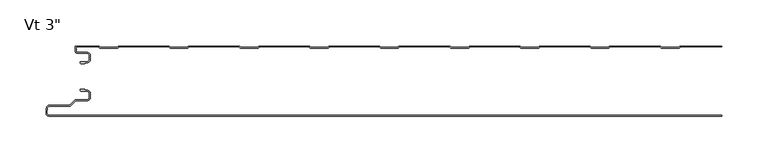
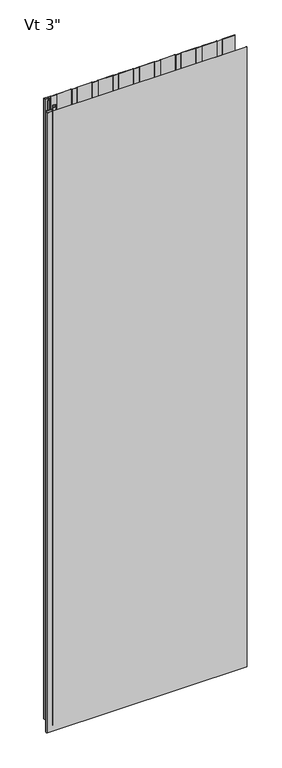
"""IFC4 building model written with IfcOpenShell, lengths in millimetres: plate geometry."""

from ifc_helpers import new_model, si_unit, point, frame, frame_2d, origin, origin_with_axes, place, context, project, spatial, polyline, circle_curve, trimmed, segment, composite_curve, outline, extrude, source, transform, mapped, element, save
from ifc_brep_helpers import plane_surface, cylinder_surface, revolved_surface, advanced_brep


def plate_c4b5e563(model_context):
    return source(origin(), model_context, "Body", "SolidModel", [
        advanced_brep(
        [(-346.968691, -17.0015202, 2400.0), (-347.9686883, -18.0015234, 2400.0), (-346.968691, -19.0015147, 2400.0), (-342.9684874, -19.0015147, 2400.0), (-342.9684874, -18.0015202, 2400.0), (-340.2762776, -18.0015202, 2400.0), (-336.9762819, -14.7015245, 2400.0), (-336.9762819, -10.3015333, 2400.0), (-340.2762774, -7.0015378, 2400.0), (-350.6962563, -7.0015378, 2400.0), (-352.4662505, -5.2315436, 2400.0), (-352.4662505, -0.9999959, 2400.0), (-327.9659738, -0.9999959, 2400.0), (-326.5803312, -2.200235, 2400.0), (-307.2051649, -2.200235, 2400.0), (-305.819532, -1.0000043, 2400.0), (-251.7661166, -1.0000043, 2400.0), (-250.3804836, -2.200235, 2400.0), (-231.0053173, -2.200235, 2400.0), (-229.6196844, -1.0000043, 2400.0), (-175.566269, -1.0000043, 2400.0), (-174.180636, -2.200235, 2400.0), (-154.8054697, -2.200235, 2400.0), (-153.4198368, -1.0000043, 2400.0), (-99.3664214, -1.0000043, 2400.0), (-97.9807884, -2.200235, 2400.0), (-78.6056221, -2.200235, 2400.0), (-77.2199892, -1.0000043, 2400.0), (-23.1665738, -1.0000043, 2400.0), (-21.7809408, -2.200235, 2400.0), (-2.4057745, -2.200235, 2400.0), (-1.0201416, -1.0000043, 2400.0), (53.0332738, -1.0000043, 2400.0), (54.4189068, -2.200235, 2400.0), (73.7940731, -2.200235, 2400.0), (75.179706, -1.0000043, 2400.0), (129.2331214, -1.0000043, 2400.0), (130.6187544, -2.200235, 2400.0), (149.9939207, -2.200235, 2400.0), (151.3795536, -1.0000043, 2400.0), (205.432969, -1.0000043, 2400.0), (206.818602, -2.200235, 2400.0), (226.1937683, -2.200235, 2400.0), (227.5794012, -1.0000043, 2400.0), (281.6328166, -1.0000043, 2400.0), (283.0184496, -2.200235, 2400.0), (302.3936159, -2.200235, 2400.0), (303.7792488, -1.0000043, 2400.0), (348.9999998, -1.0000043, 2400.0), (348.9999998, -4.3e-06, 2400.0), (303.9284, -4.3e-06, 2400.0), (303.0117831, -0.3417928, 2400.0), (302.0207355, -1.200235, 2400.0), (283.39133, -1.200235, 2400.0), (282.4002824, -0.3417928, 2400.0), (281.4836655, -4.3e-06, 2400.0), (227.7285524, -4.3e-06, 2400.0), (226.8119355, -0.3417928, 2400.0), (225.8208879, -1.200235, 2400.0), (207.1914824, -1.200235, 2400.0), (206.2004348, -0.3417928, 2400.0), (205.2838179, -4.3e-06, 2400.0), (151.5287048, -4.3e-06, 2400.0), (150.6120879, -0.3417928, 2400.0), (149.6210403, -1.200235, 2400.0), (130.9916348, -1.200235, 2400.0), (130.0005872, -0.3417928, 2400.0), (129.0839703, -4.3e-06, 2400.0), (75.3288572, -4.3e-06, 2400.0), (74.4122403, -0.3417928, 2400.0), (73.4211927, -1.200235, 2400.0), (54.7917872, -1.200235, 2400.0), (53.8007396, -0.3417928, 2400.0), (52.8841227, -4.3e-06, 2400.0), (-0.8709904, -4.3e-06, 2400.0), (-1.7876073, -0.3417928, 2400.0), (-2.7786549, -1.200235, 2400.0), (-21.4080604, -1.200235, 2400.0), (-22.399108, -0.3417928, 2400.0), (-23.3157249, -4.3e-06, 2400.0), (-77.070838, -4.3e-06, 2400.0), (-77.9874549, -0.3417928, 2400.0), (-78.9785025, -1.200235, 2400.0), (-97.607908, -1.200235, 2400.0), (-98.5989556, -0.3417928, 2400.0), (-99.5155725, -4.3e-06, 2400.0), (-153.2706856, -4.3e-06, 2400.0), (-154.1873025, -0.3417928, 2400.0), (-155.1783501, -1.200235, 2400.0), (-173.8077556, -1.200235, 2400.0), (-174.7988032, -0.3417928, 2400.0), (-175.7154201, -4.3e-06, 2400.0), (-229.4705332, -4.3e-06, 2400.0), (-230.3871501, -0.3417928, 2400.0), (-231.3781977, -1.200235, 2400.0), (-250.0076032, -1.200235, 2400.0), (-250.9986508, -0.3417928, 2400.0), (-251.9152677, -4.3e-06, 2400.0), (-305.6703808, -4.3e-06, 2400.0), (-306.5869977, -0.3417928, 2400.0), (-307.5780453, -1.200235, 2400.0), (-326.2074508, -1.200235, 2400.0), (-327.1984984, -0.3417928, 2400.0), (-328.1152067, -4.3e-06, 2400.0), (-352.0662543, 4.1e-06, 2400.0), (-353.4662505, -1.3999921, 2400.0), (-353.4662505, -5.2315436, 2400.0), (-350.6962563, -8.0015378, 2400.0), (-340.2762774, -8.0015378, 2400.0), (-337.9762819, -10.3015333, 2400.0), (-337.9762819, -14.7015245, 2400.0), (-340.2762776, -17.0015202, 2400.0), (-346.968691, -17.0015202, 0.0), (-340.2762776, -17.0015202, 0.0), (-337.9762819, -14.7015245, 0.0), (-337.9762819, -10.3015333, 0.0), (-340.2762774, -8.0015378, 0.0), (-350.6962563, -8.0015378, 0.0), (-353.4662505, -5.2315436, 0.0), (-353.4662505, -1.3999921, 0.0), (-352.0662543, 4.1e-06, 0.0), (-328.1151153, 4.1e-06, 0.0), (-327.1984984, -0.3417928, 0.0), (-326.2074508, -1.200235, 0.0), (-307.5780453, -1.200235, 0.0), (-306.5869977, -0.3417928, 0.0), (-305.6703808, -4.3e-06, 0.0), (-251.9152677, -4.3e-06, 0.0), (-250.9986508, -0.3417928, 0.0), (-250.0076032, -1.200235, 0.0), (-231.3781977, -1.200235, 0.0), (-230.3871501, -0.3417928, 0.0), (-229.4705332, -4.3e-06, 0.0), (-175.7154201, -4.3e-06, 0.0), (-174.7988032, -0.3417928, 0.0), (-173.8077556, -1.200235, 0.0), (-155.1783501, -1.200235, 0.0), (-154.1873025, -0.3417928, 0.0), (-153.2706856, -4.3e-06, 0.0), (-99.5155725, -4.3e-06, 0.0), (-98.5989556, -0.3417928, 0.0), (-97.607908, -1.200235, 0.0), (-78.9785025, -1.200235, 0.0), (-77.9874549, -0.3417928, 0.0), (-77.070838, -4.3e-06, 0.0), (-23.3157249, -4.3e-06, 0.0), (-22.399108, -0.3417928, 0.0), (-21.4080604, -1.200235, 0.0), (-2.7786549, -1.200235, 0.0), (-1.7876073, -0.3417928, 0.0), (-0.8709904, -4.3e-06, 0.0), (52.8841227, -4.3e-06, 0.0), (53.8007396, -0.3417928, 0.0), (54.7917872, -1.200235, 0.0), (73.4211927, -1.200235, 0.0), (74.4122403, -0.3417928, 0.0), (75.3288572, -4.3e-06, 0.0), (129.0839703, -4.3e-06, 0.0), (130.0005872, -0.3417928, 0.0), (130.9916348, -1.200235, 0.0), (149.6210403, -1.200235, 0.0), (150.6120879, -0.3417928, 0.0), (151.5287048, -4.3e-06, 0.0), (205.2838179, -4.3e-06, 0.0), (206.2004348, -0.3417928, 0.0), (207.1914824, -1.200235, 0.0), (225.8208879, -1.200235, 0.0), (226.8119355, -0.3417928, 0.0), (227.7285524, -4.3e-06, 0.0), (281.4836655, -4.3e-06, 0.0), (282.4002824, -0.3417928, 0.0), (283.39133, -1.200235, 0.0), (302.0207355, -1.200235, 0.0), (303.0117831, -0.3417928, 0.0), (303.9284, -4.3e-06, 0.0), (348.9999998, -4.3e-06, 0.0), (348.9999998, -1.0000043, 0.0), (303.7792488, -1.0000043, 0.0), (302.3936159, -2.200235, 0.0), (283.0184496, -2.200235, 0.0), (281.6328166, -1.0000043, 0.0), (227.5794012, -1.0000043, 0.0), (226.1937683, -2.200235, 0.0), (206.818602, -2.200235, 0.0), (205.432969, -1.0000043, 0.0), (151.3795536, -1.0000043, 0.0), (149.9939207, -2.200235, 0.0), (130.6187544, -2.200235, 0.0), (129.2331214, -1.0000043, 0.0), (75.179706, -1.0000043, 0.0), (73.7940731, -2.200235, 0.0), (54.4189068, -2.200235, 0.0), (53.0332738, -1.0000043, 0.0), (-1.0201416, -1.0000043, 0.0), (-2.4057745, -2.200235, 0.0), (-21.7809408, -2.200235, 0.0), (-23.1665738, -1.0000043, 0.0), (-77.2199892, -1.0000043, 0.0), (-78.6056221, -2.200235, 0.0), (-97.9807884, -2.200235, 0.0), (-99.3664214, -1.0000043, 0.0), (-153.4198368, -1.0000043, 0.0), (-154.8054697, -2.200235, 0.0), (-174.180636, -2.200235, 0.0), (-175.566269, -1.0000043, 0.0), (-229.6196844, -1.0000043, 0.0), (-231.0053173, -2.200235, 0.0), (-250.3804836, -2.200235, 0.0), (-251.7661166, -1.0000043, 0.0), (-305.819532, -1.0000043, 0.0), (-307.2051649, -2.200235, 0.0), (-326.5803312, -2.200235, 0.0), (-327.9659738, -0.9999959, 0.0), (-352.4662505, -0.9999959, 0.0), (-352.4662505, -5.2315436, 0.0), (-350.6962563, -7.0015378, 0.0), (-340.2762774, -7.0015378, 0.0), (-336.9762819, -10.3015333, 0.0), (-336.9762819, -14.7015245, 0.0), (-340.2762776, -18.0015202, 0.0), (-342.9684874, -18.0015202, 0.0), (-342.9684874, -19.0015147, 0.0), (-346.968691, -19.0015147, 0.0), (-347.9686882, -18.0015235, 0.0)],
        [
            (0, 1, circle_curve(frame((-346.968691, -18.0015175, 2400.0), z_axis=(0.0, 0.0, 1.0), x_axis=(1.0, 0.0, 0.0)), 0.9999973)),
            (1, 2, circle_curve(frame((-346.968691, -18.0015175, 2400.0), z_axis=(0.0, 0.0, 1.0), x_axis=(1.0, 0.0, 0.0)), 0.9999972)),
            (2, 3),
            (3, 4),
            (4, 5),
            (5, 6, circle_curve(frame((-340.2762776, -14.7015245, 2400.0), z_axis=(0.0, 0.0, 1.0), x_axis=(1.0, 0.0, 0.0)), 3.2999957)),
            (6, 7),
            (7, 8, circle_curve(frame((-340.2762774, -10.3015333, 2400.0), z_axis=(0.0, 0.0, 1.0), x_axis=(1.0, 0.0, 0.0)), 3.2999955)),
            (8, 9),
            (9, 10, circle_curve(frame((-350.6962563, -5.2315436, 2400.0), z_axis=(0.0, 0.0, -1.0), x_axis=(1.0, 0.0, 0.0)), 1.7699942)),
            (10, 11),
            (11, 12),
            (12, 13),
            (13, 14),
            (14, 15),
            (15, 16),
            (16, 17),
            (17, 18),
            (18, 19),
            (19, 20),
            (20, 21),
            (21, 22),
            (22, 23),
            (23, 24),
            (24, 25),
            (25, 26),
            (26, 27),
            (27, 28),
            (28, 29),
            (29, 30),
            (30, 31),
            (31, 32),
            (32, 33),
            (33, 34),
            (34, 35),
            (35, 36),
            (36, 37),
            (37, 38),
            (38, 39),
            (39, 40),
            (40, 41),
            (41, 42),
            (42, 43),
            (43, 44),
            (44, 45),
            (45, 46),
            (46, 47),
            (47, 48),
            (48, 49),
            (49, 50),
            (50, 51, circle_curve(frame((303.9284, -1.4000015, 2400.0), z_axis=(0.0, 0.0, 1.0), x_axis=(1.0, 0.0, 0.0)), 1.3999972)),
            (51, 52),
            (52, 53),
            (53, 54),
            (54, 55, circle_curve(frame((281.4836655, -1.4000015, 2400.0), z_axis=(0.0, 0.0, 1.0), x_axis=(1.0, 0.0, 0.0)), 1.3999972)),
            (55, 56),
            (56, 57, circle_curve(frame((227.7285524, -1.4000015, 2400.0), z_axis=(0.0, 0.0, 1.0), x_axis=(1.0, 0.0, 0.0)), 1.3999972)),
            (57, 58),
            (58, 59),
            (59, 60),
            (60, 61, circle_curve(frame((205.2838179, -1.4000015, 2400.0), z_axis=(0.0, 0.0, 1.0), x_axis=(1.0, 0.0, 0.0)), 1.3999972)),
            (61, 62),
            (62, 63, circle_curve(frame((151.5287048, -1.4000015, 2400.0), z_axis=(0.0, 0.0, 1.0), x_axis=(1.0, 0.0, 0.0)), 1.3999972)),
            (63, 64),
            (64, 65),
            (65, 66),
            (66, 67, circle_curve(frame((129.0839703, -1.4000015, 2400.0), z_axis=(0.0, 0.0, 1.0), x_axis=(1.0, 0.0, 0.0)), 1.3999972)),
            (67, 68),
            (68, 69, circle_curve(frame((75.3288572, -1.4000015, 2400.0), z_axis=(0.0, 0.0, 1.0), x_axis=(1.0, 0.0, 0.0)), 1.3999972)),
            (69, 70),
            (70, 71),
            (71, 72),
            (72, 73, circle_curve(frame((52.8841227, -1.4000015, 2400.0), z_axis=(0.0, 0.0, 1.0), x_axis=(1.0, 0.0, 0.0)), 1.3999972)),
            (73, 74),
            (74, 75, circle_curve(frame((-0.8709904, -1.4000015, 2400.0), z_axis=(0.0, 0.0, 1.0), x_axis=(1.0, 0.0, 0.0)), 1.3999972)),
            (75, 76),
            (76, 77),
            (77, 78),
            (78, 79, circle_curve(frame((-23.3157249, -1.4000015, 2400.0), z_axis=(0.0, 0.0, 1.0), x_axis=(1.0, 0.0, 0.0)), 1.3999972)),
            (79, 80),
            (80, 81, circle_curve(frame((-77.070838, -1.4000015, 2400.0), z_axis=(0.0, 0.0, 1.0), x_axis=(1.0, 0.0, 0.0)), 1.3999972)),
            (81, 82),
            (82, 83),
            (83, 84),
            (84, 85, circle_curve(frame((-99.5155725, -1.4000015, 2400.0), z_axis=(0.0, 0.0, 1.0), x_axis=(1.0, 0.0, 0.0)), 1.3999972)),
            (85, 86),
            (86, 87, circle_curve(frame((-153.2706856, -1.4000015, 2400.0), z_axis=(0.0, 0.0, 1.0), x_axis=(1.0, 0.0, 0.0)), 1.3999972)),
            (87, 88),
            (88, 89),
            (89, 90),
            (90, 91, circle_curve(frame((-175.7154201, -1.4000015, 2400.0), z_axis=(0.0, 0.0, 1.0), x_axis=(1.0, 0.0, 0.0)), 1.3999972)),
            (91, 92),
            (92, 93, circle_curve(frame((-229.4705332, -1.4000015, 2400.0), z_axis=(0.0, 0.0, 1.0), x_axis=(1.0, 0.0, 0.0)), 1.3999972)),
            (93, 94),
            (94, 95),
            (95, 96),
            (96, 97, circle_curve(frame((-251.9152677, -1.4000015, 2400.0), z_axis=(0.0, 0.0, 1.0), x_axis=(1.0, 0.0, 0.0)), 1.3999972)),
            (97, 98),
            (98, 99, circle_curve(frame((-305.6703808, -1.4000015, 2400.0), z_axis=(0.0, 0.0, 1.0), x_axis=(1.0, 0.0, 0.0)), 1.3999972)),
            (99, 100),
            (100, 101),
            (101, 102),
            (102, 103, circle_curve(frame((-328.1151153, -1.4000015, 2400.0), z_axis=(0.0, 0.0, 1.0), x_axis=(1.0, 0.0, 0.0)), 1.3999972)),
            (103, 104),
            (104, 105, circle_curve(frame((-352.0662543, -1.3999921, 2400.0), z_axis=(0.0, 0.0, 1.0), x_axis=(1.0, 0.0, 0.0)), 1.3999962)),
            (105, 106),
            (106, 107, circle_curve(frame((-350.6962563, -5.2315436, 2400.0), z_axis=(0.0, 0.0, 1.0), x_axis=(1.0, 0.0, 0.0)), 2.7699942)),
            (107, 108),
            (108, 109, circle_curve(frame((-340.2762774, -10.3015333, 2400.0), z_axis=(0.0, 0.0, -1.0), x_axis=(1.0, 0.0, 0.0)), 2.2999955)),
            (109, 110),
            (110, 111, circle_curve(frame((-340.2762776, -14.7015245, 2400.0), z_axis=(0.0, 0.0, -1.0), x_axis=(1.0, 0.0, 0.0)), 2.2999957)),
            (111, 0),
            (112, 113),
            (113, 114, circle_curve(frame((-340.2762776, -14.7015245, 0.0), z_axis=(0.0, 0.0, 1.0), x_axis=(1.0, 0.0, 0.0)), 2.2999957)),
            (114, 115),
            (115, 116, circle_curve(frame((-340.2762774, -10.3015333, 0.0), z_axis=(0.0, 0.0, 1.0), x_axis=(1.0, 0.0, 0.0)), 2.2999955)),
            (116, 117),
            (117, 118, circle_curve(frame((-350.6962563, -5.2315436, 0.0), z_axis=(0.0, 0.0, -1.0), x_axis=(1.0, 0.0, 0.0)), 2.7699942)),
            (118, 119),
            (119, 120, circle_curve(frame((-352.0662543, -1.3999921, 0.0), z_axis=(0.0, 0.0, -1.0), x_axis=(1.0, 0.0, 0.0)), 1.3999962)),
            (120, 121),
            (121, 122, circle_curve(frame((-328.1151153, -1.4000015, 0.0), z_axis=(0.0, 0.0, -1.0), x_axis=(1.0, 0.0, 0.0)), 1.3999972)),
            (122, 123),
            (123, 124),
            (124, 125),
            (125, 126, circle_curve(frame((-305.6703808, -1.4000015, 0.0), z_axis=(0.0, 0.0, -1.0), x_axis=(1.0, 0.0, 0.0)), 1.3999972)),
            (126, 127),
            (127, 128, circle_curve(frame((-251.9152677, -1.4000015, 0.0), z_axis=(0.0, 0.0, -1.0), x_axis=(1.0, 0.0, 0.0)), 1.3999972)),
            (128, 129),
            (129, 130),
            (130, 131),
            (131, 132, circle_curve(frame((-229.4705332, -1.4000015, 0.0), z_axis=(0.0, 0.0, -1.0), x_axis=(1.0, 0.0, 0.0)), 1.3999972)),
            (132, 133),
            (133, 134, circle_curve(frame((-175.7154201, -1.4000015, 0.0), z_axis=(0.0, 0.0, -1.0), x_axis=(1.0, 0.0, 0.0)), 1.3999972)),
            (134, 135),
            (135, 136),
            (136, 137),
            (137, 138, circle_curve(frame((-153.2706856, -1.4000015, 0.0), z_axis=(0.0, 0.0, -1.0), x_axis=(1.0, 0.0, 0.0)), 1.3999972)),
            (138, 139),
            (139, 140, circle_curve(frame((-99.5155725, -1.4000015, 0.0), z_axis=(0.0, 0.0, -1.0), x_axis=(1.0, 0.0, 0.0)), 1.3999972)),
            (140, 141),
            (141, 142),
            (142, 143),
            (143, 144, circle_curve(frame((-77.070838, -1.4000015, 0.0), z_axis=(0.0, 0.0, -1.0), x_axis=(1.0, 0.0, 0.0)), 1.3999972)),
            (144, 145),
            (145, 146, circle_curve(frame((-23.3157249, -1.4000015, 0.0), z_axis=(0.0, 0.0, -1.0), x_axis=(1.0, 0.0, 0.0)), 1.3999972)),
            (146, 147),
            (147, 148),
            (148, 149),
            (149, 150, circle_curve(frame((-0.8709904, -1.4000015, 0.0), z_axis=(0.0, 0.0, -1.0), x_axis=(1.0, 0.0, 0.0)), 1.3999972)),
            (150, 151),
            (151, 152, circle_curve(frame((52.8841227, -1.4000015, 0.0), z_axis=(0.0, 0.0, -1.0), x_axis=(1.0, 0.0, 0.0)), 1.3999972)),
            (152, 153),
            (153, 154),
            (154, 155),
            (155, 156, circle_curve(frame((75.3288572, -1.4000015, 0.0), z_axis=(0.0, 0.0, -1.0), x_axis=(1.0, 0.0, 0.0)), 1.3999972)),
            (156, 157),
            (157, 158, circle_curve(frame((129.0839703, -1.4000015, 0.0), z_axis=(0.0, 0.0, -1.0), x_axis=(1.0, 0.0, 0.0)), 1.3999972)),
            (158, 159),
            (159, 160),
            (160, 161),
            (161, 162, circle_curve(frame((151.5287048, -1.4000015, 0.0), z_axis=(0.0, 0.0, -1.0), x_axis=(1.0, 0.0, 0.0)), 1.3999972)),
            (162, 163),
            (163, 164, circle_curve(frame((205.2838179, -1.4000015, 0.0), z_axis=(0.0, 0.0, -1.0), x_axis=(1.0, 0.0, 0.0)), 1.3999972)),
            (164, 165),
            (165, 166),
            (166, 167),
            (167, 168, circle_curve(frame((227.7285524, -1.4000015, 0.0), z_axis=(0.0, 0.0, -1.0), x_axis=(1.0, 0.0, 0.0)), 1.3999972)),
            (168, 169),
            (169, 170, circle_curve(frame((281.4836655, -1.4000015, 0.0), z_axis=(0.0, 0.0, -1.0), x_axis=(1.0, 0.0, 0.0)), 1.3999972)),
            (170, 171),
            (171, 172),
            (172, 173),
            (173, 174, circle_curve(frame((303.9284, -1.4000015, 0.0), z_axis=(0.0, 0.0, -1.0), x_axis=(1.0, 0.0, 0.0)), 1.3999972)),
            (174, 175),
            (175, 176),
            (176, 177),
            (177, 178),
            (178, 179),
            (179, 180),
            (180, 181),
            (181, 182),
            (182, 183),
            (183, 184),
            (184, 185),
            (185, 186),
            (186, 187),
            (187, 188),
            (188, 189),
            (189, 190),
            (190, 191),
            (191, 192),
            (192, 193),
            (193, 194),
            (194, 195),
            (195, 196),
            (196, 197),
            (197, 198),
            (198, 199),
            (199, 200),
            (200, 201),
            (201, 202),
            (202, 203),
            (203, 204),
            (204, 205),
            (205, 206),
            (206, 207),
            (207, 208),
            (208, 209),
            (209, 210),
            (210, 211),
            (211, 212),
            (212, 213),
            (213, 214),
            (214, 215, circle_curve(frame((-350.6962563, -5.2315436, 0.0), z_axis=(0.0, 0.0, 1.0), x_axis=(1.0, 0.0, 0.0)), 1.7699942)),
            (215, 216),
            (216, 217, circle_curve(frame((-340.2762774, -10.3015333, 0.0), z_axis=(0.0, 0.0, -1.0), x_axis=(1.0, 0.0, 0.0)), 3.2999955)),
            (217, 218),
            (218, 219, circle_curve(frame((-340.2762776, -14.7015245, 0.0), z_axis=(0.0, 0.0, -1.0), x_axis=(1.0, 0.0, 0.0)), 3.2999957)),
            (219, 220),
            (220, 221),
            (221, 222),
            (222, 223, circle_curve(frame((-346.968691, -18.0015175, 0.0), z_axis=(0.0, 0.0, -1.0), x_axis=(1.0, 0.0, 0.0)), 0.9999972)),
            (223, 112, circle_curve(frame((-346.968691, -18.0015175, 0.0), z_axis=(0.0, 0.0, -1.0), x_axis=(1.0, 0.0, 0.0)), 0.9999973)),
            (48, 176),
            (175, 49),
            (111, 113),
            (112, 0),
            (110, 114),
            (109, 115),
            (108, 116),
            (107, 117),
            (106, 118),
            (105, 119),
            (104, 120),
            (103, 121),
            (102, 122),
            (101, 123),
            (100, 124),
            (99, 125),
            (98, 126),
            (97, 127),
            (96, 128),
            (95, 129),
            (94, 130),
            (93, 131),
            (92, 132),
            (91, 133),
            (90, 134),
            (89, 135),
            (88, 136),
            (87, 137),
            (86, 138),
            (85, 139),
            (84, 140),
            (83, 141),
            (82, 142),
            (81, 143),
            (80, 144),
            (79, 145),
            (78, 146),
            (77, 147),
            (76, 148),
            (75, 149),
            (74, 150),
            (73, 151),
            (72, 152),
            (71, 153),
            (70, 154),
            (69, 155),
            (68, 156),
            (67, 157),
            (66, 158),
            (65, 159),
            (64, 160),
            (63, 161),
            (62, 162),
            (38, 186),
            (185, 39),
            (37, 187),
            (36, 188),
            (35, 189),
            (34, 190),
            (33, 191),
            (32, 192),
            (31, 193),
            (30, 194),
            (29, 195),
            (28, 196),
            (27, 197),
            (26, 198),
            (25, 199),
            (24, 200),
            (23, 201),
            (22, 202),
            (21, 203),
            (20, 204),
            (19, 205),
            (18, 206),
            (17, 207),
            (16, 208),
            (15, 209),
            (14, 210),
            (13, 211),
            (12, 212),
            (11, 213),
            (10, 214),
            (9, 215),
            (8, 216),
            (7, 217),
            (6, 218),
            (5, 219),
            (4, 220),
            (3, 221),
            (2, 222),
            (1, 223),
            (55, 169),
            (168, 56),
            (54, 170),
            (53, 171),
            (52, 172),
            (51, 173),
            (50, 174),
            (43, 181),
            (180, 44),
            (42, 182),
            (41, 183),
            (40, 184),
            (61, 163),
            (60, 164),
            (59, 165),
            (58, 166),
            (57, 167),
            (47, 177),
            (46, 178),
            (45, 179),
        ],
        [
            plane_surface(frame((32.0000002, -4.3e-06, 2400.0), z_axis=(0.0, 0.0, 1.0), x_axis=(0.0, 1.0, 0.0))),
            plane_surface(frame((32.0000002, -4.3e-06, 0.0), z_axis=(0.0, 0.0, -1.0), x_axis=(0.0, 1.0, 0.0))),
            plane_surface(frame((348.9999998, -86.2000043, 2400.0), z_axis=(1.0, 0.0, 0.0), x_axis=(0.0, 0.0, -1.0))),
            plane_surface(frame((-346.968691, -17.0015202, 2400.0), z_axis=(0.0, 1.0, 0.0), x_axis=(0.0, 0.0, -1.0))),
            revolved_surface(polyline([(-337.9762819, -14.7015245, 0.0), (-337.9762819, -14.7015245, 2400.0)]), (-340.2762776, -14.7015245, 2400.0), (0.0, 0.0, -1.0)),
            plane_surface(frame((-337.9762819, -14.7015245, 2400.0), z_axis=(-1.0, 0.0, 0.0), x_axis=(0.0, 0.0, -1.0))),
            revolved_surface(polyline([(-337.9762819, -10.3015333, 0.0), (-337.9762819, -10.3015333, 2400.0)]), (-340.2762774, -10.3015333, 2400.0), (0.0, 0.0, -1.0)),
            plane_surface(frame((-340.2762774, -8.0015378, 2400.0), z_axis=(0.0, -1.0, 0.0), x_axis=(0.0, 0.0, -1.0))),
            cylinder_surface(frame((-350.6962563, -5.2315436, 2400.0), z_axis=(0.0, 0.0, 1.0), x_axis=(1.0, 0.0, 0.0)), 2.7699942),
            plane_surface(frame((-353.4662505, -5.2315436, 2400.0), z_axis=(-1.0, 0.0, 0.0), x_axis=(0.0, 0.0, -1.0))),
            cylinder_surface(frame((-352.0662543, -1.3999921, 2400.0), z_axis=(0.0, 0.0, 1.0), x_axis=(1.0, 0.0, 0.0)), 1.3999962),
            plane_surface(frame((-352.0662543, 4.1e-06, 2400.0), z_axis=(0.0, 1.0, 0.0), x_axis=(0.0, 0.0, -1.0))),
            cylinder_surface(frame((-328.1151153, -1.4000015, 2400.0), z_axis=(0.0, 0.0, 1.0), x_axis=(1.0, 0.0, 0.0)), 1.3999972),
            plane_surface(frame((-327.1984984, -0.3417928, 2400.0), z_axis=(0.6547276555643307, 0.7558648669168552, 0.0), x_axis=(0.0, 0.0, -1.0))),
            plane_surface(frame((-316.8927481, -1.200235, 2400.0), z_axis=(0.0, 1.0, 0.0), x_axis=(0.0, 0.0, -1.0))),
            plane_surface(frame((-307.5780453, -1.200235, 2400.0), z_axis=(-0.6547276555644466, 0.7558648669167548, 0.0), x_axis=(0.0, 0.0, -1.0))),
            cylinder_surface(frame((-305.6703808, -1.4000015, 2400.0), z_axis=(0.0, 0.0, 1.0), x_axis=(1.0, 0.0, 0.0)), 1.3999972),
            plane_surface(frame((-305.6703808, -4.3e-06, 2400.0), z_axis=(0.0, 1.0, 0.0), x_axis=(0.0, 0.0, -1.0))),
            cylinder_surface(frame((-251.9152677, -1.4000015, 2400.0), z_axis=(0.0, 0.0, 1.0), x_axis=(1.0, 0.0, 0.0)), 1.3999972),
            plane_surface(frame((-250.9986508, -0.3417928, 2400.0), z_axis=(0.6547276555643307, 0.7558648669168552, 0.0), x_axis=(0.0, 0.0, -1.0))),
            plane_surface(frame((-240.6929005, -1.200235, 2400.0), z_axis=(0.0, 1.0, 0.0), x_axis=(0.0, 0.0, -1.0))),
            plane_surface(frame((-231.3781977, -1.200235, 2400.0), z_axis=(-0.6547276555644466, 0.7558648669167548, 0.0), x_axis=(0.0, 0.0, -1.0))),
            cylinder_surface(frame((-229.4705332, -1.4000015, 2400.0), z_axis=(0.0, 0.0, 1.0), x_axis=(1.0, 0.0, 0.0)), 1.3999972),
            plane_surface(frame((-229.4705332, -4.3e-06, 2400.0), z_axis=(0.0, 1.0, 0.0), x_axis=(0.0, 0.0, -1.0))),
            cylinder_surface(frame((-175.7154201, -1.4000015, 2400.0), z_axis=(0.0, 0.0, 1.0), x_axis=(1.0, 0.0, 0.0)), 1.3999972),
            plane_surface(frame((-174.7988032, -0.3417928, 2400.0), z_axis=(0.6547276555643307, 0.7558648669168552, 0.0), x_axis=(0.0, 0.0, -1.0))),
            plane_surface(frame((-164.4930529, -1.200235, 2400.0), z_axis=(0.0, 1.0, 0.0), x_axis=(0.0, 0.0, -1.0))),
            plane_surface(frame((-155.1783501, -1.200235, 2400.0), z_axis=(-0.6547276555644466, 0.7558648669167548, 0.0), x_axis=(0.0, 0.0, -1.0))),
            cylinder_surface(frame((-153.2706856, -1.4000015, 2400.0), z_axis=(0.0, 0.0, 1.0), x_axis=(1.0, 0.0, 0.0)), 1.3999972),
            plane_surface(frame((-153.2706856, -4.3e-06, 2400.0), z_axis=(0.0, 1.0, 0.0), x_axis=(0.0, 0.0, -1.0))),
            cylinder_surface(frame((-99.5155725, -1.4000015, 2400.0), z_axis=(0.0, 0.0, 1.0), x_axis=(1.0, 0.0, 0.0)), 1.3999972),
            plane_surface(frame((-98.5989556, -0.3417928, 2400.0), z_axis=(0.6547276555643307, 0.7558648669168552, 0.0), x_axis=(0.0, 0.0, -1.0))),
            plane_surface(frame((-88.2932053, -1.200235, 2400.0), z_axis=(0.0, 1.0, 0.0), x_axis=(0.0, 0.0, -1.0))),
            plane_surface(frame((-78.9785025, -1.200235, 2400.0), z_axis=(-0.6547276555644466, 0.7558648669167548, 0.0), x_axis=(0.0, 0.0, -1.0))),
            cylinder_surface(frame((-77.070838, -1.4000015, 2400.0), z_axis=(0.0, 0.0, 1.0), x_axis=(1.0, 0.0, 0.0)), 1.3999972),
            plane_surface(frame((-77.070838, -4.3e-06, 2400.0), z_axis=(0.0, 1.0, 0.0), x_axis=(0.0, 0.0, -1.0))),
            cylinder_surface(frame((-23.3157249, -1.4000015, 2400.0), z_axis=(0.0, 0.0, 1.0), x_axis=(1.0, 0.0, 0.0)), 1.3999972),
            plane_surface(frame((-22.399108, -0.3417928, 2400.0), z_axis=(0.6547276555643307, 0.7558648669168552, 0.0), x_axis=(0.0, 0.0, -1.0))),
            plane_surface(frame((-12.0933577, -1.200235, 2400.0), z_axis=(0.0, 1.0, 0.0), x_axis=(0.0, 0.0, -1.0))),
            plane_surface(frame((-2.7786549, -1.200235, 2400.0), z_axis=(-0.6547276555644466, 0.7558648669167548, 0.0), x_axis=(0.0, 0.0, -1.0))),
            cylinder_surface(frame((-0.8709904, -1.4000015, 2400.0), z_axis=(0.0, 0.0, 1.0), x_axis=(1.0, 0.0, 0.0)), 1.3999972),
            plane_surface(frame((-0.8709904, -4.3e-06, 2400.0), z_axis=(0.0, 1.0, 0.0), x_axis=(0.0, 0.0, -1.0))),
            cylinder_surface(frame((52.8841227, -1.4000015, 2400.0), z_axis=(0.0, 0.0, 1.0), x_axis=(1.0, 0.0, 0.0)), 1.3999972),
            plane_surface(frame((53.8007396, -0.3417928, 2400.0), z_axis=(0.6547276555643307, 0.7558648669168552, 0.0), x_axis=(0.0, 0.0, -1.0))),
            plane_surface(frame((64.1064899, -1.200235, 2400.0), z_axis=(0.0, 1.0, 0.0), x_axis=(0.0, 0.0, -1.0))),
            plane_surface(frame((73.4211927, -1.200235, 2400.0), z_axis=(-0.6547276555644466, 0.7558648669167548, 0.0), x_axis=(0.0, 0.0, -1.0))),
            cylinder_surface(frame((75.3288572, -1.4000015, 2400.0), z_axis=(0.0, 0.0, 1.0), x_axis=(1.0, 0.0, 0.0)), 1.3999972),
            plane_surface(frame((75.3288572, -4.3e-06, 2400.0), z_axis=(0.0, 1.0, 0.0), x_axis=(0.0, 0.0, -1.0))),
            cylinder_surface(frame((129.0839703, -1.4000015, 2400.0), z_axis=(0.0, 0.0, 1.0), x_axis=(1.0, 0.0, 0.0)), 1.3999972),
            plane_surface(frame((130.0005872, -0.3417928, 2400.0), z_axis=(0.6547276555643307, 0.7558648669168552, 0.0), x_axis=(0.0, 0.0, -1.0))),
            plane_surface(frame((140.3063375, -1.200235, 2400.0), z_axis=(0.0, 1.0, 0.0), x_axis=(0.0, 0.0, -1.0))),
            plane_surface(frame((149.6210403, -1.200235, 2400.0), z_axis=(-0.6547276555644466, 0.7558648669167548, 0.0), x_axis=(0.0, 0.0, -1.0))),
            cylinder_surface(frame((151.5287048, -1.4000015, 2400.0), z_axis=(0.0, 0.0, 1.0), x_axis=(1.0, 0.0, 0.0)), 1.3999972),
            plane_surface(frame((151.3795536, -1.0000043, 2400.0), z_axis=(0.6547276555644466, -0.7558648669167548, 0.0), x_axis=(0.0, 0.0, -1.0))),
            plane_surface(frame((149.9939207, -2.200235, 2400.0), z_axis=(0.0, -1.0, 0.0), x_axis=(0.0, 0.0, -1.0))),
            plane_surface(frame((130.6187544, -2.200235, 2400.0), z_axis=(-0.6547276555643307, -0.7558648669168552, 0.0), x_axis=(0.0, 0.0, -1.0))),
            plane_surface(frame((129.2331214, -1.0000043, 2400.0), z_axis=(0.0, -1.0, 0.0), x_axis=(0.0, 0.0, -1.0))),
            plane_surface(frame((75.179706, -1.0000043, 2400.0), z_axis=(0.6547276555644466, -0.7558648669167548, 0.0), x_axis=(0.0, 0.0, -1.0))),
            plane_surface(frame((73.7940731, -2.200235, 2400.0), z_axis=(0.0, -1.0, 0.0), x_axis=(0.0, 0.0, -1.0))),
            plane_surface(frame((54.4189068, -2.200235, 2400.0), z_axis=(-0.6547276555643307, -0.7558648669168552, 0.0), x_axis=(0.0, 0.0, -1.0))),
            plane_surface(frame((53.0332738, -1.0000043, 2400.0), z_axis=(0.0, -1.0, 0.0), x_axis=(0.0, 0.0, -1.0))),
            plane_surface(frame((-1.0201416, -1.0000043, 2400.0), z_axis=(0.6547276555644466, -0.7558648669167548, 0.0), x_axis=(0.0, 0.0, -1.0))),
            plane_surface(frame((-2.4057745, -2.200235, 2400.0), z_axis=(0.0, -1.0, 0.0), x_axis=(0.0, 0.0, -1.0))),
            plane_surface(frame((-21.7809408, -2.200235, 2400.0), z_axis=(-0.6547276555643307, -0.7558648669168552, 0.0), x_axis=(0.0, 0.0, -1.0))),
            plane_surface(frame((-23.1665738, -1.0000043, 2400.0), z_axis=(0.0, -1.0, 0.0), x_axis=(0.0, 0.0, -1.0))),
            plane_surface(frame((-77.2199892, -1.0000043, 2400.0), z_axis=(0.6547276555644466, -0.7558648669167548, 0.0), x_axis=(0.0, 0.0, -1.0))),
            plane_surface(frame((-78.6056221, -2.200235, 2400.0), z_axis=(0.0, -1.0, 0.0), x_axis=(0.0, 0.0, -1.0))),
            plane_surface(frame((-97.9807884, -2.200235, 2400.0), z_axis=(-0.6547276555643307, -0.7558648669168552, 0.0), x_axis=(0.0, 0.0, -1.0))),
            plane_surface(frame((-99.3664214, -1.0000043, 2400.0), z_axis=(0.0, -1.0, 0.0), x_axis=(0.0, 0.0, -1.0))),
            plane_surface(frame((-153.4198368, -1.0000043, 2400.0), z_axis=(0.6547276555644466, -0.7558648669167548, 0.0), x_axis=(0.0, 0.0, -1.0))),
            plane_surface(frame((-154.8054697, -2.200235, 2400.0), z_axis=(0.0, -1.0, 0.0), x_axis=(0.0, 0.0, -1.0))),
            plane_surface(frame((-174.180636, -2.200235, 2400.0), z_axis=(-0.6547276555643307, -0.7558648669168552, 0.0), x_axis=(0.0, 0.0, -1.0))),
            plane_surface(frame((-175.566269, -1.0000043, 2400.0), z_axis=(0.0, -1.0, 0.0), x_axis=(0.0, 0.0, -1.0))),
            plane_surface(frame((-229.6196844, -1.0000043, 2400.0), z_axis=(0.6547276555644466, -0.7558648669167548, 0.0), x_axis=(0.0, 0.0, -1.0))),
            plane_surface(frame((-231.0053173, -2.200235, 2400.0), z_axis=(0.0, -1.0, 0.0), x_axis=(0.0, 0.0, -1.0))),
            plane_surface(frame((-250.3804836, -2.200235, 2400.0), z_axis=(-0.6547276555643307, -0.7558648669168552, 0.0), x_axis=(0.0, 0.0, -1.0))),
            plane_surface(frame((-251.7661166, -1.0000043, 2400.0), z_axis=(0.0, -1.0, 0.0), x_axis=(0.0, 0.0, -1.0))),
            plane_surface(frame((-305.819532, -1.0000043, 2400.0), z_axis=(0.6547276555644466, -0.7558648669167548, 0.0), x_axis=(0.0, 0.0, -1.0))),
            plane_surface(frame((-307.2051649, -2.200235, 2400.0), z_axis=(0.0, -1.0, 0.0), x_axis=(0.0, 0.0, -1.0))),
            plane_surface(frame((-326.5803312, -2.200235, 2400.0), z_axis=(-0.6547276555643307, -0.7558648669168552, 0.0), x_axis=(0.0, 0.0, -1.0))),
            plane_surface(frame((-327.9659738, -0.9999959, 2400.0), z_axis=(0.0, -1.0, 0.0), x_axis=(0.0, 0.0, -1.0))),
            plane_surface(frame((-352.4662505, -0.9999959, 2400.0), z_axis=(1.0, 0.0, 0.0), x_axis=(0.0, 0.0, -1.0))),
            revolved_surface(polyline([(-348.92626210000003, -5.2315436, 0.0), (-348.92626210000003, -5.2315436, 2400.0)]), (-350.6962563, -5.2315436, 2400.0), (0.0, 0.0, -1.0)),
            plane_surface(frame((-350.6962563, -7.0015378, 2400.0), z_axis=(0.0, 1.0, 0.0), x_axis=(0.0, 0.0, -1.0))),
            cylinder_surface(frame((-340.2762774, -10.3015333, 2400.0), z_axis=(0.0, 0.0, 1.0), x_axis=(1.0, 0.0, 0.0)), 3.2999955),
            plane_surface(frame((-336.9762819, -10.3015333, 2400.0), z_axis=(1.0, 0.0, 0.0), x_axis=(0.0, 0.0, -1.0))),
            cylinder_surface(frame((-340.2762776, -14.7015245, 2400.0), z_axis=(0.0, 0.0, 1.0), x_axis=(1.0, 0.0, 0.0)), 3.2999957),
            plane_surface(frame((-340.2762776, -18.0015202, 2400.0), z_axis=(0.0, -1.0, 0.0), x_axis=(0.0, 0.0, -1.0))),
            plane_surface(frame((-342.9684874, -18.0015202, 2400.0), z_axis=(1.0, 0.0, 0.0), x_axis=(0.0, 0.0, -1.0))),
            plane_surface(frame((-342.9684874, -19.0015147, 2400.0), z_axis=(0.0, -1.0, 0.0), x_axis=(0.0, 0.0, -1.0))),
            cylinder_surface(frame((-346.968691, -18.0015175, 2400.0), z_axis=(0.0, 0.0, 1.0), x_axis=(1.0, 0.0, 0.0)), 0.9999972),
            cylinder_surface(frame((-346.968691, -18.0015175, 2400.0), z_axis=(0.0, 0.0, 1.0), x_axis=(1.0, 0.0, 0.0)), 0.9999973),
            plane_surface(frame((227.7285524, -4.3e-06, 2400.0), z_axis=(0.0, 1.0, 0.0), x_axis=(0.0, 0.0, -1.0))),
            cylinder_surface(frame((281.4836655, -1.4000015, 2400.0), z_axis=(0.0, 0.0, 1.0), x_axis=(1.0, 0.0, 0.0)), 1.3999972),
            plane_surface(frame((282.4002824, -0.3417928, 2400.0), z_axis=(0.6547276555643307, 0.7558648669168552, 0.0), x_axis=(0.0, 0.0, -1.0))),
            plane_surface(frame((292.7060327, -1.200235, 2400.0), z_axis=(0.0, 1.0, 0.0), x_axis=(0.0, 0.0, -1.0))),
            plane_surface(frame((302.0207355, -1.200235, 2400.0), z_axis=(-0.6547276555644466, 0.7558648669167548, 0.0), x_axis=(0.0, 0.0, -1.0))),
            cylinder_surface(frame((303.9284, -1.4000015, 2400.0), z_axis=(0.0, 0.0, 1.0), x_axis=(1.0, 0.0, 0.0)), 1.3999972),
            plane_surface(frame((303.9284, -4.3e-06, 2400.0), z_axis=(0.0, 1.0, 0.0), x_axis=(0.0, 0.0, -1.0))),
            plane_surface(frame((281.6328166, -1.0000043, 2400.0), z_axis=(0.0, -1.0, 0.0), x_axis=(0.0, 0.0, -1.0))),
            plane_surface(frame((227.5794012, -1.0000043, 2400.0), z_axis=(0.6547276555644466, -0.7558648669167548, 0.0), x_axis=(0.0, 0.0, -1.0))),
            plane_surface(frame((226.1937683, -2.200235, 2400.0), z_axis=(0.0, -1.0, 0.0), x_axis=(0.0, 0.0, -1.0))),
            plane_surface(frame((206.818602, -2.200235, 2400.0), z_axis=(-0.6547276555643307, -0.7558648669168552, 0.0), x_axis=(0.0, 0.0, -1.0))),
            plane_surface(frame((205.432969, -1.0000043, 2400.0), z_axis=(0.0, -1.0, 0.0), x_axis=(0.0, 0.0, -1.0))),
            plane_surface(frame((151.5287048, -4.3e-06, 2400.0), z_axis=(0.0, 1.0, 0.0), x_axis=(0.0, 0.0, -1.0))),
            cylinder_surface(frame((205.2838179, -1.4000015, 2400.0), z_axis=(0.0, 0.0, 1.0), x_axis=(1.0, 0.0, 0.0)), 1.3999972),
            plane_surface(frame((206.2004348, -0.3417928, 2400.0), z_axis=(0.6547276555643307, 0.7558648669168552, 0.0), x_axis=(0.0, 0.0, -1.0))),
            plane_surface(frame((216.5061851, -1.200235, 2400.0), z_axis=(0.0, 1.0, 0.0), x_axis=(0.0, 0.0, -1.0))),
            plane_surface(frame((225.8208879, -1.200235, 2400.0), z_axis=(-0.6547276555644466, 0.7558648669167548, 0.0), x_axis=(0.0, 0.0, -1.0))),
            cylinder_surface(frame((227.7285524, -1.4000015, 2400.0), z_axis=(0.0, 0.0, 1.0), x_axis=(1.0, 0.0, 0.0)), 1.3999972),
            plane_surface(frame((357.8326642, -1.0000043, 2400.0), z_axis=(0.0, -1.0, 0.0), x_axis=(0.0, 0.0, -1.0))),
            plane_surface(frame((303.7792488, -1.0000043, 2400.0), z_axis=(0.6547276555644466, -0.7558648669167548, 0.0), x_axis=(0.0, 0.0, -1.0))),
            plane_surface(frame((302.3936159, -2.200235, 2400.0), z_axis=(0.0, -1.0, 0.0), x_axis=(0.0, 0.0, -1.0))),
            plane_surface(frame((283.0184496, -2.200235, 2400.0), z_axis=(-0.6547276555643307, -0.7558648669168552, 0.0), x_axis=(0.0, 0.0, -1.0))),
        ],
        [
            (0, [[1, 2, 3, 4, 5, 6, 7, 8, 9, 10, 11, 12, 13, 14, 15, 16, 17, 18, 19, 20, 21, 22, 23, 24, 25, 26, 27, 28, 29, 30, 31, 32, 33, 34, 35, 36, 37, 38, 39, 40, 41, 42, 43, 44, 45, 46, 47, 48, 49, 50, 51, 52, 53, 54, 55, 56, 57, 58, 59, 60, 61, 62, 63, 64, 65, 66, 67, 68, 69, 70, 71, 72, 73, 74, 75, 76, 77, 78, 79, 80, 81, 82, 83, 84, 85, 86, 87, 88, 89, 90, 91, 92, 93, 94, 95, 96, 97, 98, 99, 100, 101, 102, 103, 104, 105, 106, 107, 108, 109, 110, 111, 112]]),
            (1, [[113, 114, 115, 116, 117, 118, 119, 120, 121, 122, 123, 124, 125, 126, 127, 128, 129, 130, 131, 132, 133, 134, 135, 136, 137, 138, 139, 140, 141, 142, 143, 144, 145, 146, 147, 148, 149, 150, 151, 152, 153, 154, 155, 156, 157, 158, 159, 160, 161, 162, 163, 164, 165, 166, 167, 168, 169, 170, 171, 172, 173, 174, 175, 176, 177, 178, 179, 180, 181, 182, 183, 184, 185, 186, 187, 188, 189, 190, 191, 192, 193, 194, 195, 196, 197, 198, 199, 200, 201, 202, 203, 204, 205, 206, 207, 208, 209, 210, 211, 212, 213, 214, 215, 216, 217, 218, 219, 220, 221, 222, 223, 224]]),
            (2, [[225, -176, 226, -49]]),
            (3, [[227, -113, 228, -112]]),
            (4, [[229, -114, -227, -111]]),
            (5, [[230, -115, -229, -110]]),
            (6, [[231, -116, -230, -109]]),
            (7, [[232, -117, -231, -108]]),
            (8, [[233, -118, -232, -107]]),
            (9, [[234, -119, -233, -106]]),
            (10, [[235, -120, -234, -105]]),
            (11, [[236, -121, -235, -104]]),
            (12, [[237, -122, -236, -103]]),
            (13, [[238, -123, -237, -102]]),
            (14, [[239, -124, -238, -101]]),
            (15, [[240, -125, -239, -100]]),
            (16, [[241, -126, -240, -99]]),
            (17, [[242, -127, -241, -98]]),
            (18, [[243, -128, -242, -97]]),
            (19, [[244, -129, -243, -96]]),
            (20, [[245, -130, -244, -95]]),
            (21, [[246, -131, -245, -94]]),
            (22, [[247, -132, -246, -93]]),
            (23, [[248, -133, -247, -92]]),
            (24, [[249, -134, -248, -91]]),
            (25, [[250, -135, -249, -90]]),
            (26, [[251, -136, -250, -89]]),
            (27, [[252, -137, -251, -88]]),
            (28, [[253, -138, -252, -87]]),
            (29, [[254, -139, -253, -86]]),
            (30, [[255, -140, -254, -85]]),
            (31, [[256, -141, -255, -84]]),
            (32, [[257, -142, -256, -83]]),
            (33, [[258, -143, -257, -82]]),
            (34, [[259, -144, -258, -81]]),
            (35, [[260, -145, -259, -80]]),
            (36, [[261, -146, -260, -79]]),
            (37, [[262, -147, -261, -78]]),
            (38, [[263, -148, -262, -77]]),
            (39, [[264, -149, -263, -76]]),
            (40, [[265, -150, -264, -75]]),
            (41, [[266, -151, -265, -74]]),
            (42, [[267, -152, -266, -73]]),
            (43, [[268, -153, -267, -72]]),
            (44, [[269, -154, -268, -71]]),
            (45, [[270, -155, -269, -70]]),
            (46, [[271, -156, -270, -69]]),
            (47, [[272, -157, -271, -68]]),
            (48, [[273, -158, -272, -67]]),
            (49, [[274, -159, -273, -66]]),
            (50, [[275, -160, -274, -65]]),
            (51, [[276, -161, -275, -64]]),
            (52, [[277, -162, -276, -63]]),
            (53, [[278, -186, 279, -39]]),
            (54, [[280, -187, -278, -38]]),
            (55, [[281, -188, -280, -37]]),
            (56, [[282, -189, -281, -36]]),
            (57, [[283, -190, -282, -35]]),
            (58, [[284, -191, -283, -34]]),
            (59, [[285, -192, -284, -33]]),
            (60, [[286, -193, -285, -32]]),
            (61, [[287, -194, -286, -31]]),
            (62, [[288, -195, -287, -30]]),
            (63, [[289, -196, -288, -29]]),
            (64, [[290, -197, -289, -28]]),
            (65, [[291, -198, -290, -27]]),
            (66, [[292, -199, -291, -26]]),
            (67, [[293, -200, -292, -25]]),
            (68, [[294, -201, -293, -24]]),
            (69, [[295, -202, -294, -23]]),
            (70, [[296, -203, -295, -22]]),
            (71, [[297, -204, -296, -21]]),
            (72, [[298, -205, -297, -20]]),
            (73, [[299, -206, -298, -19]]),
            (74, [[300, -207, -299, -18]]),
            (75, [[301, -208, -300, -17]]),
            (76, [[302, -209, -301, -16]]),
            (77, [[303, -210, -302, -15]]),
            (78, [[304, -211, -303, -14]]),
            (79, [[305, -212, -304, -13]]),
            (80, [[306, -213, -305, -12]]),
            (81, [[307, -214, -306, -11]]),
            (82, [[308, -215, -307, -10]]),
            (83, [[309, -216, -308, -9]]),
            (84, [[310, -217, -309, -8]]),
            (85, [[311, -218, -310, -7]]),
            (86, [[312, -219, -311, -6]]),
            (87, [[313, -220, -312, -5]]),
            (88, [[314, -221, -313, -4]]),
            (89, [[315, -222, -314, -3]]),
            (90, [[316, -223, -315, -2]]),
            (91, [[-228, -224, -316, -1]]),
            (92, [[317, -169, 318, -56]]),
            (93, [[319, -170, -317, -55]]),
            (94, [[320, -171, -319, -54]]),
            (95, [[321, -172, -320, -53]]),
            (96, [[322, -173, -321, -52]]),
            (97, [[323, -174, -322, -51]]),
            (98, [[-50, -226, -175, -323]]),
            (99, [[324, -181, 325, -44]]),
            (100, [[326, -182, -324, -43]]),
            (101, [[327, -183, -326, -42]]),
            (102, [[328, -184, -327, -41]]),
            (103, [[-279, -185, -328, -40]]),
            (104, [[329, -163, -277, -62]]),
            (105, [[330, -164, -329, -61]]),
            (106, [[331, -165, -330, -60]]),
            (107, [[332, -166, -331, -59]]),
            (108, [[333, -167, -332, -58]]),
            (109, [[-318, -168, -333, -57]]),
            (110, [[-177, -225, -48, 334]]),
            (111, [[335, -178, -334, -47]]),
            (112, [[336, -179, -335, -46]]),
            (113, [[-325, -180, -336, -45]]),
        ],
    ),
        extrude(outline(composite_curve([segment(polyline([(-385.0087548, -72.3184134), (-384.5690674, -67.294448)]), True, "CONTINUOUS"), segment(trimmed(circle_curve(frame_2d((-380.9198391, -67.9052491)), 3.6999926), [point((-384.5690674, -67.294448))], [point((-380.9198391, -64.2052565))], False, "CARTESIAN"), True, "CONTINUOUS"), segment(polyline([(-380.9198391, -64.2052565), (-359.7773995, -64.2052565)]), True, "CONTINUOUS"), segment(trimmed(circle_curve(frame_2d((-359.7773995, -62.9052591)), 1.2999974), [point((-359.7773995, -64.2052565))], [point((-358.8581626, -63.8244961))], True, "CARTESIAN"), True, "CONTINUOUS"), segment(polyline([(-358.8581626, -63.8244961), (-354.0297451, -58.9960786)]), True, "CONTINUOUS"), segment(trimmed(circle_curve(frame_2d((-352.1205606, -60.9052631)), 2.6999946), [point((-354.0297451, -58.9960786))], [point((-352.1205606, -58.2052685))], False, "CARTESIAN"), True, "CONTINUOUS"), segment(polyline([(-352.1205606, -58.2052685), (-340.3096715, -58.2052685)]), True, "CONTINUOUS"), segment(trimmed(circle_curve(frame_2d((-340.3096715, -55.8552732)), 2.3499953), [point((-340.3096715, -58.2052685))], [point((-337.9596762, -55.8552732))], True, "CARTESIAN"), True, "CONTINUOUS"), segment(polyline([(-337.9596762, -55.8552732), (-337.9596762, -51.455282)]), True, "CONTINUOUS"), segment(trimmed(circle_curve(frame_2d((-340.3096715, -51.455282)), 2.3499953), [point((-337.9596762, -51.455282))], [point((-340.3096715, -49.1052867))], True, "CARTESIAN"), True, "CONTINUOUS"), segment(polyline([(-340.3096715, -49.1052867), (-346.8289777, -49.1052867)]), True, "CONTINUOUS"), segment(trimmed(circle_curve(frame_2d((-346.7686906, -47.9068044)), 1.1999976), [point((-346.8289777, -49.1052867))], [point((-347.9683, -47.8762825))], False, "CARTESIAN"), True, "CONTINUOUS"), segment(trimmed(circle_curve(frame_2d((-346.7686906, -47.9068044)), 1.1999976), [point((-347.9683, -47.8762825))], [point((-346.767176, -46.7068078))], False, "CARTESIAN"), True, "CONTINUOUS"), segment(polyline([(-346.767176, -46.7068078), (-343.0087826, -46.7068078), (-343.0087826, -48.1052867), (-340.3096715, -48.1052867)]), True, "CONTINUOUS"), segment(trimmed(circle_curve(frame_2d((-340.3096715, -51.455282)), 3.3499953), [point((-340.3096715, -48.1052867))], [point((-336.9596762, -51.455282))], False, "CARTESIAN"), True, "CONTINUOUS"), segment(polyline([(-336.9596762, -51.455282), (-336.9596762, -55.8552732)]), True, "CONTINUOUS"), segment(trimmed(circle_curve(frame_2d((-340.3096715, -55.8552732)), 3.3499953), [point((-336.9596762, -55.8552732))], [point((-340.3096715, -59.2052685))], False, "CARTESIAN"), True, "CONTINUOUS"), segment(polyline([(-340.3096715, -59.2052685), (-352.1205606, -59.2052685)]), True, "CONTINUOUS"), segment(trimmed(circle_curve(frame_2d((-352.1205606, -60.9052631)), 1.6999946), [point((-352.1205606, -59.2052685))], [point((-353.3226383, -59.7031854))], True, "CARTESIAN"), True, "CONTINUOUS"), segment(polyline([(-353.3226383, -59.7031854), (-358.8247094, -65.2052565), (-380.9198391, -65.2052565)]), True, "CONTINUOUS"), segment(trimmed(circle_curve(frame_2d((-380.9198391, -67.9052491)), 2.6999926), [point((-380.9198391, -65.2052565))], [point((-383.5765707, -67.4238585))], True, "CARTESIAN"), True, "CONTINUOUS"), segment(polyline([(-383.5765707, -67.4238585), (-384.0125697, -72.4056793)]), True, "CONTINUOUS"), segment(trimmed(circle_curve(frame_2d((-381.4521175, -72.629765)), 2.5702393), [point((-384.0125697, -72.4056793))], [point((-381.5094458, -75.1993649))], True, "CARTESIAN"), True, "CONTINUOUS"), segment(polyline([(-381.5094458, -75.1993649), (348.9999998, -75.1993649), (348.9999998, -76.199456), (-381.4521081, -76.1999231)]), True, "CONTINUOUS"), segment(trimmed(circle_curve(frame_2d((-381.4521104, -72.6296838)), 3.5702393), [point((-381.4521081, -76.1999231))], [point((-385.0087548, -72.3184134))], False, "CARTESIAN"), True, "CONTINUOUS")], self_intersect=False)), origin_with_axes(), (0.0, 0.0, 1.0), 2400.0),
    ])


if __name__ == "__main__":
    model = new_model("IFC4")
    model_context = context("Model", 3, world=origin())
    ifc_project = project(units=[si_unit("LENGTHUNIT", "METRE", prefix="MILLI")], contexts=[model_context])
    site = spatial("IfcSite", under=ifc_project)
    building = spatial("IfcBuilding", under=site)
    placement = place(None, origin())
    plate_shape = plate_c4b5e563(model_context)
    element("IfcPlate", 1, ObjectType="KIP-30-Karrier-KP-R19-CP-Vt-FL3-8_SL : Vt 3\"", at=placement, inside=building, context=model_context, shape_type="MappedRepresentation", body=[
        mapped(plate_shape, transform((0.0, 0.0, 0.0), x_axis=(1.0, 0.0, 0.0), y_axis=(0.0, 1.0, 0.0), z_axis=(0.0, 0.0, 1.0))),
    ])
    save(model, "model.ifc")
